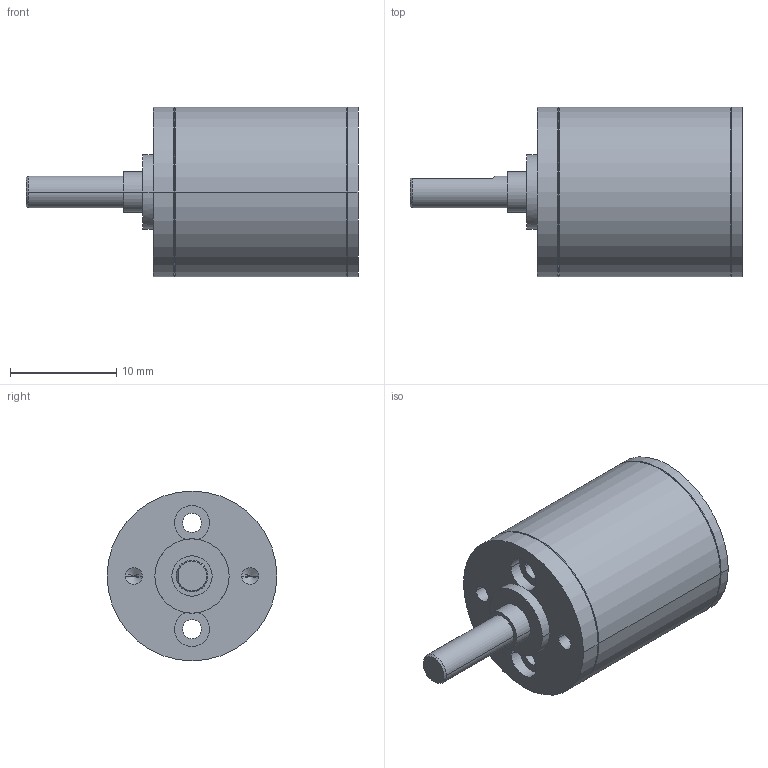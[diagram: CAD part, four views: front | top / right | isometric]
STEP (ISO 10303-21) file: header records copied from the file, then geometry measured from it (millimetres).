
FILE_DESCRIPTION((''),'2;1');
FILE_NAME('GS16V','2016-10-06T',('mmagpetk'),(''),'CREO PARAMETRIC BY PTC INC, 2016050','CREO PARAMETRIC BY PTC INC, 2016050','');
FILE_SCHEMA(('CONFIG_CONTROL_DESIGN'));
Length unit declared in the file: millimetre
Products named in the file (1): GS16V
Bounding box: 31.3 x 16 x 16 mm (x, y, z)
Volume: 3497.4 mm3; surface area: 2063.1 mm2
Topology: 1 solids, 1 shells, 51 faces, 115 edges, 68 vertices
Faces by surface type: cylinder 26, cone 13, plane 12
Entity records: 1866 total; most frequent: DIRECTION 274, CARTESIAN_POINT 242, ORIENTED_EDGE 222, AXIS2_PLACEMENT_3D 116, PRESENTATION_STYLE_ASSIGNMENT 112, STYLED_ITEM 112, CURVE_STYLE 111, EDGE_CURVE 111
